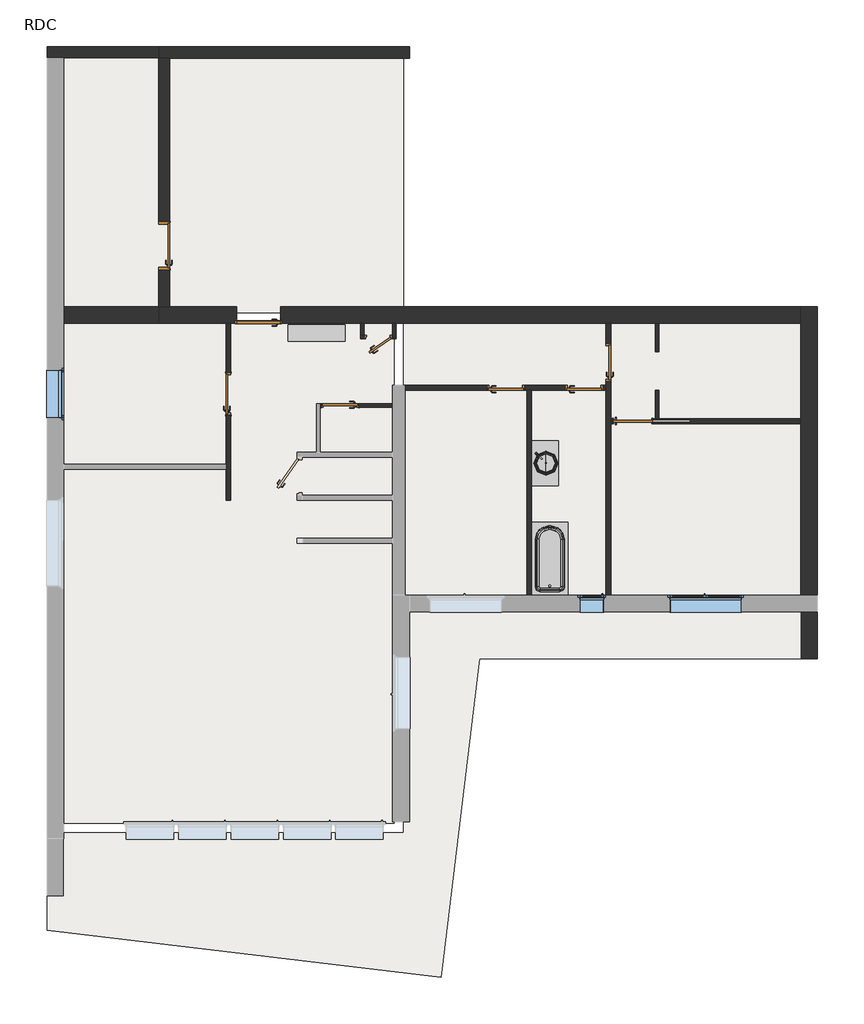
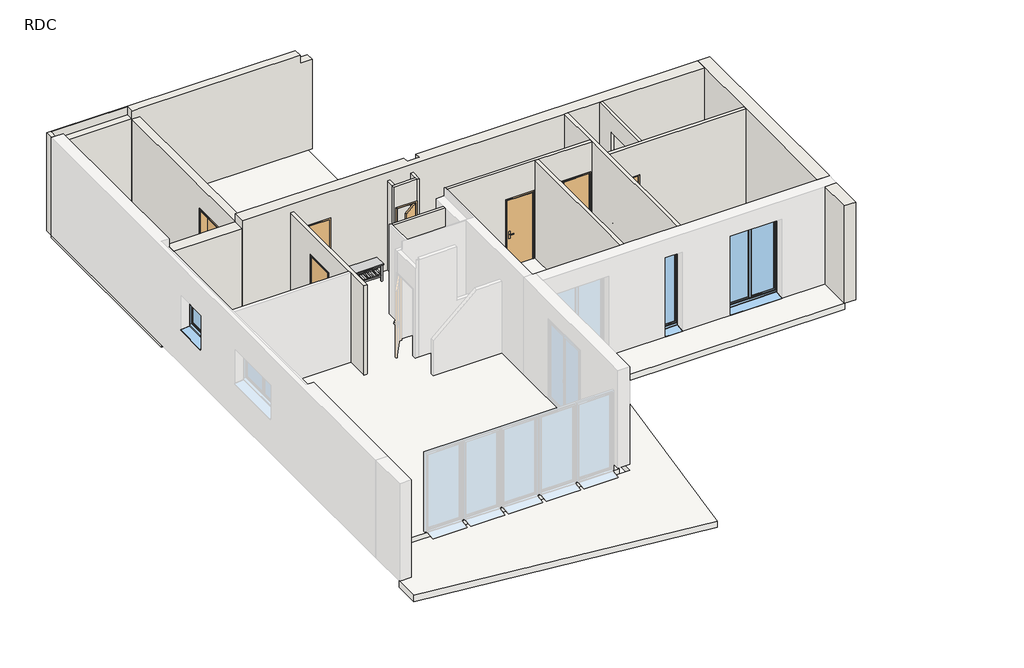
# One storey, part 2 of 2: 17 walls, 9 doors, 3 slabs, 3 windows, 2 flow terminals, 2 furniture elements.
"""IFC4 building model written with IfcOpenShell, lengths in millimetres."""

from ifc_helpers import new_model, si_unit, frame, origin, origin_with_axes, place, context, project, spatial, polyline, outline, extrude, faceted_brep, transform, mapped, element, save
from components import door_41a9e6d8, door_0_80m_x_2_04m_e0b4653d, int_simple_pp_0_53m_x_2_04m_9d17cb83, int_simple_pp_0_73m_x_2_04m_359deddd, int_simple_pp_0_73m_x_2_04m_ba43af2d, int_simple_pp_0_83m_x_2_04m_727c9c46, int_simple_pp_0_93m_x_2_04m_3c3404e0, flow_terminal_414a0167, baignoire_rectangulaire_mur_baignoire_rectangulaire_mur_52e2cdf1, furniture_1200_x_350_x_530_mm_359cf0c6, furniture_900mm_0b803dc7, window_0_50m_x_2_40m_2195513b, window_1_vantail_droit_1_00m_x_1_00m_58547b41, window_1_50m_x_2_40m_e69f112c

model = new_model("IFC4")

# Units and contexts
model_context = context("Model", 3, world=origin())
ifc_project = project(units=[si_unit("LENGTHUNIT", "METRE", prefix="MILLI")], contexts=[model_context])

# Site, building, storey
site = spatial("IfcSite", under=ifc_project)
building = spatial("IfcBuilding", under=site)
storey = spatial("IfcBuildingStorey", under=building, Name="RDC", Elevation=0.0)

# Doors
placement = place(None, origin())
door_shape = door_41a9e6d8(model_context)
element("IfcDoor", 1, ObjectType="Porte d'entrée : PP Lisse (0.90 m x 2.15 m)", at=placement, inside=storey, context=model_context, shape_type="MappedRepresentation", body=[
    mapped(door_shape, transform((-3541.697342, 2229.9574199, 0.0), x_axis=(-1.0, 0.0, 0.0), y_axis=(0.0, -1.0, 0.0), z_axis=(0.0, 0.0, 1.0))),
])
door_0_80m_x_2_04m_shape = door_0_80m_x_2_04m_e0b4653d(model_context)
element("IfcDoor", 2, ObjectType="Coulissante - Encastrée : 0.80m x 2.04m", at=placement, inside=storey, context=model_context, shape_type="MappedRepresentation", body=[
    mapped(door_0_80m_x_2_04m_shape, transform((4300.2977717, -3.0065065, 0.0), x_axis=(-1.0, 0.0, 0.0), y_axis=(0.0, -1.0, 0.0), z_axis=(0.0, 0.0, 1.0))),
])
int_simple_pp_0_53m_x_2_04m_shape = int_simple_pp_0_53m_x_2_04m_9d17cb83(model_context)
element("IfcDoor", 3, ObjectType="Int. Simple : PP (0.53m x 2.04m)", at=placement, inside=storey, context=model_context, shape_type="MappedRepresentation", body=[
    mapped(int_simple_pp_0_53m_x_2_04m_shape, transform((-983.697342, 1771.8961022, 0.0), x_axis=(1.0, 0.0, 0.0), y_axis=(0.0, 1.0, 0.0), z_axis=(0.0, 0.0, 1.0))),
])
int_simple_pp_0_73m_x_2_04m_shape = int_simple_pp_0_73m_x_2_04m_359deddd(model_context)
element("IfcDoor", 4, ObjectType="Int. Simple : PP (0.73m x 2.04m)", at=placement, inside=storey, context=model_context, shape_type="MappedRepresentation", body=[
    mapped(int_simple_pp_0_73m_x_2_04m_shape, transform((-1856.697342, 335.8961022, 0.0), x_axis=(-1.0, 0.0, 0.0), y_axis=(0.0, -1.0, 0.0), z_axis=(0.0, 0.0, 1.0))),
])
int_simple_pp_0_73m_x_2_04m_2_shape = int_simple_pp_0_73m_x_2_04m_ba43af2d(model_context)
element("IfcDoor", 5, ObjectType="Int. Simple : PP (0.73m x 2.04m)", at=placement, inside=storey, context=model_context, shape_type="MappedRepresentation", body=[
    mapped(int_simple_pp_0_73m_x_2_04m_2_shape, transform((1689.302658, 707.8961022, 0.0), x_axis=(1.0, 0.0, 0.0), y_axis=(0.0, 1.0, 0.0), z_axis=(0.0, 0.0, 1.0))),
])
element("IfcDoor", 6, ObjectType="Int. Simple : PP (0.73m x 2.04m)", at=placement, inside=storey, context=model_context, shape_type="MappedRepresentation", body=[
    mapped(int_simple_pp_0_73m_x_2_04m_2_shape, transform((3329.302658, 707.8961022, 0.0), x_axis=(1.0, 0.0, 0.0), y_axis=(0.0, 1.0, 0.0), z_axis=(0.0, 0.0, 1.0))),
])
element("IfcDoor", 7, ObjectType="Int. Simple : PP (0.73m x 2.04m)", at=placement, inside=storey, context=model_context, shape_type="MappedRepresentation", body=[
    mapped(int_simple_pp_0_73m_x_2_04m_2_shape, transform((3804.302658, 1272.8961022, 0.0), x_axis=(0.0, 1.0, 0.0), y_axis=(-1.0, 0.0, 0.0), z_axis=(0.0, 0.0, 1.0))),
])
int_simple_pp_0_83m_x_2_04m_shape = int_simple_pp_0_83m_x_2_04m_727c9c46(model_context)
element("IfcDoor", 8, ObjectType="Int. Simple : PP (0.83m x 2.04m)", at=placement, inside=storey, context=model_context, shape_type="MappedRepresentation", body=[
    mapped(int_simple_pp_0_83m_x_2_04m_shape, transform((-4161.697342, 614.9267611, 0.0), x_axis=(0.0, 1.0, 0.0), y_axis=(-1.0, 0.0, 0.0), z_axis=(0.0, 0.0, 1.0))),
])
int_simple_pp_0_93m_x_2_04m_shape = int_simple_pp_0_93m_x_2_04m_3c3404e0(model_context)
element("IfcDoor", 9, ObjectType="Int. Simple : PP (0.93m x 2.04m)", at=placement, inside=storey, context=model_context, shape_type="MappedRepresentation", body=[
    mapped(int_simple_pp_0_93m_x_2_04m_shape, transform((-5501.5193778, 3719.9574199, 0.0), x_axis=(0.0, 1.0, 0.0), y_axis=(-1.0, 0.0, 0.0), z_axis=(0.0, 0.0, 1.0))),
])

# Flow terminals
flow_terminal_shape = flow_terminal_414a0167(model_context)
element("IfcFlowTerminal", 10, ObjectType="Lavabo moderne : Lavabo moderne", at=placement, inside=storey, context=model_context, shape_type="MappedRepresentation", body=[
    mapped(flow_terminal_shape, transform((2194.302658, -893.8262703, 740.0), x_axis=(0.0, 1.0, 0.0), y_axis=(-1.0, 0.0, 0.0), z_axis=(0.0, 0.0, 1.0))),
])
baignoire_rectangulaire_mur_baignoire_rectangulaire_mur_shape = baignoire_rectangulaire_mur_baignoire_rectangulaire_mur_52e2cdf1(model_context)
element("IfcFlowTerminal", 11, ObjectType="Baignoire rectangulaire - Mur : Baignoire rectangulaire - Mur", at=placement, inside=storey, context=model_context, shape_type="MappedRepresentation", body=[
    mapped(baignoire_rectangulaire_mur_baignoire_rectangulaire_mur_shape, transform((2144.302658, -2524.4396113, 0.0), x_axis=(0.0, 1.0, 0.0), y_axis=(-1.0, 0.0, 0.0), z_axis=(0.0, 0.0, 1.0))),
])

# Furniture
furniture_1200_x_350_x_530_mm_shape = furniture_1200_x_350_x_530_mm_359cf0c6(model_context)
element("IfcFurniture", 12, ObjectType="Banc : 1200 x 350 x 530 mm", at=placement, inside=storey, context=model_context, shape_type="MappedRepresentation", body=[
    mapped(furniture_1200_x_350_x_530_mm_shape, transform((-2313.697342, 2039.796778, 0.0), x_axis=(1.0, 0.0, 0.0), y_axis=(0.0, 1.0, 0.0), z_axis=(0.0, 0.0, 1.0))),
])
furniture_900mm_shape = furniture_900mm_0b803dc7(model_context)
element("IfcFurniture", 13, ObjectType="Meuble sous lavabo - Porte simple et 2 tiroirs : 900mm", at=placement, inside=storey, context=model_context, shape_type="MappedRepresentation", body=[
    mapped(furniture_900mm_shape, transform((2194.302658, -963.9141086, 0.0), x_axis=(0.0, 1.0, 0.0), y_axis=(-1.0, 0.0, 0.0), z_axis=(0.0, 0.0, 1.0))),
])

# Slabs
element("IfcSlab", 14, ObjectType="Dalle en béton + Isolant", at=placement, inside=storey, context=model_context, shape_type="SweptSolid", body=[
    extrude(outline(polyline([(7863.302658, -3665.0425801), (-486.697342, -3665.0425801), (-486.697342, 2084.9574199), (7863.302658, 2084.9574199), (7863.302658, -3665.0425801)])), frame((0.0, 0.0, -360.0), z_axis=(0.0, 0.0, 1.0), x_axis=(1.0, 0.0, 0.0)), (0.0, 0.0, 1.0), 360.0),
    extrude(outline(polyline([(-7636.697342, -8415.0425801), (-7636.697342, 2084.9574199), (-686.697342, 2084.9574199), (-686.697342, -8415.0425801), (-7636.697342, -8415.0425801)])), frame((0.0, 0.0, -360.0), z_axis=(0.0, 0.0, 1.0), x_axis=(1.0, 0.0, 0.0)), (0.0, 0.0, 1.0), 360.0),
])
element("IfcSlab", 15, ObjectType="Dalle en béton", at=placement, inside=storey, context=model_context, shape_type="Brep", body=[
    faceted_brep([(-486.697342, 7834.9574199, -250.0), (-486.697342, 2284.9574199, -250.0), (-686.697342, 2284.9574199, -250.0), (-7636.697342, 2284.9574199, -250.0), (-7836.697342, 2284.9574199, -250.0), (-7836.697342, 7834.9574199, -250.0), (-7636.697342, 7834.9574199, -250.0), (-686.697342, 7834.9574199, -250.0), (-486.697342, 7834.9574199, 0.0), (-7836.697342, 7834.9574199, 0.0), (-7836.697342, 2284.9574199, 0.0), (-7636.697342, 2284.9574199, 0.0), (-686.697342, 2284.9574199, 0.0), (-486.697342, 2284.9574199, 0.0)], [[[0, 1, 2, 3, 4, 5, 6, 7]], [[8, 9, 10, 11, 12, 13]], [[1, 0, 8, 13]], [[4, 3, 2, 1, 13, 12, 11, 10]], [[5, 4, 10, 9]], [[0, 7, 6, 5, 9, 8]]]),
])
element("IfcSlab", 16, ObjectType="Terrasse", at=placement, inside=storey, context=model_context, shape_type="SweptSolid", body=[
    extrude(outline(polyline([(7863.302658, -3865.0425801), (7863.302658, -4967.1038978), (1099.5646631, -4967.1038978), (296.1534738, -11641.8526297), (-7957.697342, -10648.3716214), (-7957.697342, -9912.1038978), (-7636.697342, -9912.1038978), (-7636.697342, -8615.0425801), (-486.697342, -8615.0425801), (-486.697342, -3865.0425801), (7863.302658, -3865.0425801)])), frame((0.0, 0.0, -190.0), z_axis=(0.0, 0.0, 1.0), x_axis=(1.0, 0.0, 0.0)), (0.0, 0.0, 1.0), 190.0),
])

# Walls
element("IfcWall", 17, ObjectType="Ext. Bardage Bois + Isolant + Béton + Finition", at=placement, inside=storey, context=model_context, shape_type="Brep", body=[
    faceted_brep([(8183.302658, -3635.0425801, 0.0), (8183.302658, 2404.9574199, 0.0), (8183.302658, 2404.9574199, 3000.0), (8183.302658, -3635.0425801, 3000.0), (7833.302658, -3635.0425801, 0.0), (7833.302658, -3635.0425801, 3000.0), (7833.302658, -40.1038978, 3000.0), (7833.302658, 59.8961022, 3000.0), (7833.302658, 2054.9574199, 3000.0), (7833.302658, 2404.9574199, 3000.0), (7833.302658, 2404.9574199, 0.0), (7833.302658, 2054.9574199, 0.0), (7833.302658, 59.8961022, 0.0), (7833.302658, -40.1038978, 0.0)], [[[0, 1, 2, 3]], [[4, 5, 6, 7, 8, 9, 10, 11, 12, 13]], [[1, 0, 4, 13, 12, 11, 10]], [[3, 2, 9, 8, 7, 6, 5]], [[0, 3, 5, 4]], [[2, 1, 10, 9]]]),
])
element("IfcWall", 18, ObjectType="Ext. Bardage Bois + Isolant + Béton + Finition", at=placement, inside=storey, context=model_context, shape_type="Brep", body=[
    faceted_brep([(7833.302658, 2404.9574199, 3000.0), (7833.302658, 2404.9574199, 0.0), (-3071.697342, 2404.9574199, 0.0), (-3071.697342, 2404.9574199, 2160.0), (-3991.697342, 2404.9574199, 2160.0), (-3991.697342, 2404.9574199, 0.0), (-5386.5193778, 2404.9574199, 0.0), (-5616.5193778, 2404.9574199, 0.0), (-5616.5193778, 2404.9574199, 2750.0), (-5616.5193778, 2404.9574199, 3000.0), (-716.697342, 2404.9574199, 3000.0), (-716.697342, 2404.9574199, 2750.0), (-366.697342, 2404.9574199, 2750.0), (-366.697342, 2404.9574199, 3000.0), (7833.302658, 2054.9574199, 3000.0), (4856.302658, 2054.9574199, 3000.0), (4784.302658, 2054.9574199, 3000.0), (3854.302658, 2054.9574199, 3000.0), (3754.302658, 2054.9574199, 3000.0), (-366.697342, 2054.9574199, 3000.0), (-5616.5193778, 2054.9574199, 3000.0), (-5616.5193778, 2054.9574199, 2750.0), (-5616.5193778, 2054.9574199, 0.0), (-4211.697342, 2054.9574199, 0.0), (-4111.697342, 2054.9574199, 0.0), (-4021.697342, 2054.9574199, 0.0), (-4021.697342, 2054.9574199, 2190.0), (-3041.697342, 2054.9574199, 2190.0), (-3041.697342, 2054.9574199, 0.0), (-1392.697342, 2054.9574199, 0.0), (-1320.697342, 2054.9574199, 0.0), (-716.697342, 2054.9574199, 0.0), (-644.697342, 2054.9574199, 0.0), (3754.302658, 2054.9574199, 0.0), (3854.302658, 2054.9574199, 0.0), (4784.302658, 2054.9574199, 0.0), (4856.302658, 2054.9574199, 0.0), (7833.302658, 2054.9574199, 0.0), (-3041.697342, 2111.9574199, 0.0), (-3056.697342, 2111.9574199, 0.0), (-3056.697342, 2154.9574199, 0.0), (-3071.697342, 2154.9574199, 0.0), (-3991.697342, 2154.9574199, 0.0), (-4006.697342, 2154.9574199, 0.0), (-4006.697342, 2111.9574199, 0.0), (-4021.697342, 2111.9574199, 0.0), (-366.697342, 2229.9574199, 3000.0), (-716.697342, 2229.9574199, 3000.0), (-366.697342, 2229.9574199, 2750.0), (-716.697342, 2229.9574199, 2750.0), (-716.697342, 2284.9574199, 2750.0), (-486.697342, 2229.9574199, 2750.0), (-3071.697342, 2154.9574199, 2160.0), (-3991.697342, 2154.9574199, 2160.0), (-4006.697342, 2111.9574199, 2175.0), (-3056.697342, 2111.9574199, 2175.0), (-3041.697342, 2111.9574199, 2190.0), (-4021.697342, 2111.9574199, 2190.0), (-3056.697342, 2154.9574199, 2175.0), (-4006.697342, 2154.9574199, 2175.0)], [[[0, 1, 2, 3, 4, 5, 6, 7, 8, 9, 10, 11, 12, 13]], [[14, 15, 16, 17, 18, 19, 20, 21, 22, 23, 24, 25, 26, 27, 28, 29, 30, 31, 32, 33, 34, 35, 36, 37]], [[1, 37, 36, 35, 34, 33, 32, 31, 30, 29, 28, 38, 39, 40, 41, 2]], [[22, 7, 6, 5, 42, 43, 44, 45, 25, 24, 23]], [[20, 19, 18, 17, 16, 15, 14, 0, 13, 46, 47, 10, 9]], [[1, 0, 14, 37]], [[9, 8, 7, 22, 21, 20]], [[12, 48, 46, 13]], [[49, 50, 11, 10, 47]], [[49, 51, 48, 12, 11, 50]], [[52, 53, 4, 3]], [[53, 42, 5, 4]], [[41, 52, 3, 2]], [[44, 54, 55, 39, 38, 56, 57, 45]], [[56, 38, 28, 27]], [[57, 56, 27, 26]], [[45, 57, 26, 25]], [[39, 55, 58, 40]], [[53, 52, 41, 40, 58, 59, 43, 42]], [[55, 54, 59, 58]], [[54, 44, 43, 59]], [[48, 51, 49, 47, 46]]]),
])
element("IfcWall", 19, ObjectType="Int. Plâtre 100 mm", at=placement, inside=storey, context=model_context, shape_type="Brep", body=[
    faceted_brep([(-4111.697342, -1645.1038978, 2750.0), (-4111.697342, -1645.1038978, 0.0), (-4111.697342, 129.9267611, 0.0), (-4111.697342, 129.9267611, 2075.0), (-4111.697342, 1029.9267611, 2075.0), (-4111.697342, 1029.9267611, 0.0), (-4111.697342, 2054.9574199, 0.0), (-4111.697342, 2054.9574199, 2750.0), (-4211.697342, -1645.1038978, 0.0), (-4211.697342, -1645.1038978, 2750.0), (-4211.697342, -995.1038978, 2750.0), (-4211.697342, -895.1038978, 2750.0), (-4211.697342, 2054.9574199, 2750.0), (-4211.697342, 2054.9574199, 0.0), (-4211.697342, 1029.9267611, 0.0), (-4211.697342, 1029.9267611, 2075.0), (-4211.697342, 129.9267611, 2075.0), (-4211.697342, 129.9267611, 0.0), (-4211.697342, -895.1038978, 0.0), (-4211.697342, -995.1038978, 0.0)], [[[0, 1, 2, 3, 4, 5, 6, 7]], [[8, 9, 10, 11, 12, 13, 14, 15, 16, 17, 18, 19]], [[1, 8, 19, 18, 17, 2]], [[13, 6, 5, 14]], [[1, 0, 9, 8]], [[7, 6, 13, 12]], [[0, 7, 12, 11, 10, 9]], [[4, 15, 14, 5]], [[15, 4, 3, 16]], [[16, 3, 2, 17]]]),
])
element("IfcWall", 20, ObjectType="Int. Plâtre 100 mm", at=placement, inside=storey, context=model_context, shape_type="Brep", body=[
    faceted_brep([(3754.302658, 657.8961022, 3000.0), (2194.302658, 657.8961022, 3000.0), (2094.302658, 657.8961022, 3000.0), (-456.697342, 657.8961022, 3000.0), (-456.697342, 657.8961022, 0.0), (1254.302658, 657.8961022, 0.0), (1254.302658, 657.8961022, 2075.0), (2054.302658, 657.8961022, 2075.0), (2054.302658, 657.8961022, 0.0), (2094.302658, 657.8961022, 0.0), (2194.302658, 657.8961022, 0.0), (2894.302658, 657.8961022, 0.0), (2894.302658, 657.8961022, 2075.0), (3694.302658, 657.8961022, 2075.0), (3694.302658, 657.8961022, 0.0), (3754.302658, 657.8961022, 0.0), (-456.697342, 757.8961022, 3000.0), (3754.302658, 757.8961022, 3000.0), (3754.302658, 757.8961022, 0.0), (3694.302658, 757.8961022, 0.0), (3694.302658, 757.8961022, 2075.0), (2894.302658, 757.8961022, 2075.0), (2894.302658, 757.8961022, 0.0), (2054.302658, 757.8961022, 0.0), (2054.302658, 757.8961022, 2075.0), (1254.302658, 757.8961022, 2075.0), (1254.302658, 757.8961022, 0.0), (-456.697342, 757.8961022, 0.0)], [[[0, 1, 2, 3, 4, 5, 6, 7, 8, 9, 10, 11, 12, 13, 14, 15]], [[16, 17, 18, 19, 20, 21, 22, 23, 24, 25, 26, 27]], [[18, 15, 14, 19]], [[4, 27, 26, 5]], [[8, 23, 22, 11, 10, 9]], [[3, 2, 1, 0, 17, 16]], [[0, 15, 18, 17]], [[4, 3, 16, 27]], [[7, 24, 23, 8]], [[24, 7, 6, 25]], [[25, 6, 5, 26]], [[13, 20, 19, 14]], [[20, 13, 12, 21]], [[21, 12, 11, 22]]]),
])
element("IfcWall", 21, ObjectType="Int. Plâtre 100 mm", at=placement, inside=storey, context=model_context, shape_type="Brep", body=[
    faceted_brep([(3754.302658, -3635.0425801, 3000.0), (3754.302658, 657.8961022, 3000.0), (3754.302658, 757.8961022, 3000.0), (3754.302658, 2054.9574199, 3000.0), (3754.302658, 2054.9574199, 0.0), (3754.302658, 1637.8961022, 0.0), (3754.302658, 1637.8961022, 2075.0), (3754.302658, 837.8961022, 2075.0), (3754.302658, 837.8961022, 0.0), (3754.302658, 757.8961022, 0.0), (3754.302658, 657.8961022, 0.0), (3754.302658, -3635.0425801, 0.0), (3754.302658, -3635.0425801, 35.0), (3754.302658, -3635.0425801, 2485.0), (3854.302658, 2054.9574199, 3000.0), (3854.302658, 59.8961022, 3000.0), (3854.302658, -40.1038978, 3000.0), (3854.302658, -3635.0425801, 3000.0), (3854.302658, -3635.0425801, 0.0), (3854.302658, -40.1038978, 0.0), (3854.302658, 59.8961022, 0.0), (3854.302658, 837.8961022, 0.0), (3854.302658, 837.8961022, 2075.0), (3854.302658, 1637.8961022, 2075.0), (3854.302658, 1637.8961022, 0.0), (3854.302658, 2054.9574199, 0.0)], [[[0, 1, 2, 3, 4, 5, 6, 7, 8, 9, 10, 11, 12, 13]], [[14, 15, 16, 17, 18, 19, 20, 21, 22, 23, 24, 25]], [[4, 25, 24, 5]], [[18, 11, 10, 9, 8, 21, 20, 19]], [[3, 2, 1, 0, 17, 16, 15, 14]], [[0, 13, 12, 11, 18, 17]], [[4, 3, 14, 25]], [[23, 6, 5, 24]], [[6, 23, 22, 7]], [[7, 22, 21, 8]]]),
])
element("IfcWall", 22, ObjectType="Int. Plâtre 100 mm", at=placement, inside=storey, context=model_context, shape_type="Brep", body=[
    faceted_brep([(3854.302658, 59.8961022, 3000.0), (4784.302658, 59.8961022, 3000.0), (4856.302658, 59.8961022, 3000.0), (7833.302658, 59.8961022, 3000.0), (7833.302658, 59.8961022, 0.0), (4856.302658, 59.8961022, 0.0), (4784.302658, 59.8961022, 0.0), (4724.302658, 59.8961022, 0.0), (4724.302658, 59.8961022, 2055.0), (3894.302658, 59.8961022, 2055.0), (3894.302658, 59.8961022, 0.0), (3854.302658, 59.8961022, 0.0), (7833.302658, -40.1038978, 3000.0), (3854.302658, -40.1038978, 3000.0), (3854.302658, -40.1038978, 0.0), (3894.302658, -40.1038978, 0.0), (3894.302658, -40.1038978, 2055.0), (4724.302658, -40.1038978, 2055.0), (4724.302658, -40.1038978, 0.0), (7833.302658, -40.1038978, 0.0), (4724.302658, -15.1038978, 0.0), (5524.302658, -15.1038978, 0.0), (5524.302658, 34.8961022, 0.0), (4724.302658, 34.8961022, 0.0), (4724.302658, 34.8961022, 2055.0), (5524.302658, 34.8961022, 2055.0), (5524.302658, -15.1038978, 2055.0), (4724.302658, -15.1038978, 2055.0)], [[[0, 1, 2, 3, 4, 5, 6, 7, 8, 9, 10, 11]], [[12, 13, 14, 15, 16, 17, 18, 19]], [[4, 19, 18, 20, 21, 22, 23, 7, 6, 5]], [[14, 11, 10, 15]], [[3, 2, 1, 0, 13, 12]], [[4, 3, 12, 19]], [[0, 11, 14, 13]], [[24, 25, 26, 27, 17, 16, 9, 8]], [[9, 16, 15, 10]], [[23, 24, 8, 7]], [[25, 24, 23, 22]], [[26, 25, 22, 21]], [[27, 26, 21, 20]], [[27, 20, 18, 17]]]),
])
element("IfcWall", 23, ObjectType="Int. Plâtre 100 mm", at=placement, inside=storey, context=model_context, shape_type="SweptSolid", body=[
    extrude(outline(polyline([(2094.302658, -3635.0425801), (2094.302658, 657.8961022), (2194.302658, 657.8961022), (2194.302658, -3635.0425801), (2094.302658, -3635.0425801)])), origin_with_axes(), (0.0, 0.0, 1.0), 3000.0),
])
element("IfcWall", 24, ObjectType="Int. Plâtre 70 mm", at=placement, inside=storey, context=model_context, shape_type="SweptSolid", body=[
    extrude(outline(polyline([(2750.0, -2241.697342), (0.0, -2241.697342), (0.0, -2221.697342), (2075.0, -2221.697342), (2075.0, -1421.697342), (0.0, -1421.697342), (0.0, -716.697342), (2750.0, -716.697342), (2750.0, -2241.697342)])), frame((0.0, 299.8961022, 0.0), z_axis=(0.0, 1.0, 0.0), x_axis=(0.0, 0.0, 1.0)), (0.0, 0.0, 1.0), 72.0),
])
element("IfcWall", 25, ObjectType="Int. Plâtre 70 mm", at=placement, inside=storey, context=model_context, shape_type="SweptSolid", body=[
    extrude(outline(polyline([(59.8961022, 0.0), (59.8961022, 3000.0), (2054.9574199, 3000.0), (2054.9574199, 0.0), (1463.4416882, 0.0), (1463.4416882, 2438.4), (659.8961022, 2438.4), (659.8961022, 0.0), (59.8961022, 0.0)])), frame((4784.302658, 0.0, 0.0), z_axis=(1.0, 0.0, 0.0), x_axis=(0.0, 1.0, 0.0)), (0.0, 0.0, 1.0), 72.0),
])
element("IfcWall", 26, ObjectType="Int. Plâtre 70 mm", at=placement, inside=storey, context=model_context, shape_type="Brep", body=[
    faceted_brep([(-716.697342, 2054.9574199, 0.0), (-716.697342, 1807.8961022, 0.0), (-716.697342, 1735.8961022, 0.0), (-716.697342, 1735.8961022, 2750.0), (-716.697342, 1807.8961022, 2750.0), (-716.697342, 2054.9574199, 2750.0), (-644.697342, 2054.9574199, 0.0), (-644.697342, 2054.9574199, 2750.0), (-644.697342, 1735.8961022, 2750.0), (-644.697342, 1735.8961022, 0.0)], [[[0, 1, 2, 3, 4, 5]], [[6, 7, 8, 9]], [[2, 1, 0, 6, 9]], [[0, 5, 7, 6]], [[3, 2, 9, 8]], [[5, 4, 3, 8, 7]]]),
])
element("IfcWall", 27, ObjectType="Int. Plâtre 70 mm", at=placement, inside=storey, context=model_context, shape_type="Brep", body=[
    faceted_brep([(-716.697342, 1807.8961022, 2750.0), (-716.697342, 1807.8961022, 0.0), (-718.697342, 1807.8961022, 0.0), (-718.697342, 1807.8961022, 2075.0), (-1318.697342, 1807.8961022, 2075.0), (-1318.697342, 1807.8961022, 0.0), (-1320.697342, 1807.8961022, 0.0), (-1392.697342, 1807.8961022, 0.0), (-1392.697342, 1807.8961022, 2750.0), (-1320.697342, 1807.8961022, 2750.0), (-716.697342, 1735.8961022, 0.0), (-716.697342, 1735.8961022, 2750.0), (-1392.697342, 1735.8961022, 2750.0), (-1392.697342, 1735.8961022, 0.0), (-1318.697342, 1735.8961022, 0.0), (-1318.697342, 1735.8961022, 2075.0), (-718.697342, 1735.8961022, 2075.0), (-718.697342, 1735.8961022, 0.0)], [[[0, 1, 2, 3, 4, 5, 6, 7, 8, 9]], [[10, 11, 12, 13, 14, 15, 16, 17]], [[1, 10, 17, 2]], [[13, 7, 6, 5, 14]], [[1, 0, 11, 10]], [[8, 7, 13, 12]], [[0, 9, 8, 12, 11]], [[16, 3, 2, 17]], [[3, 16, 15, 4]], [[4, 15, 14, 5]]]),
])
element("IfcWall", 28, ObjectType="Int. Plâtre 70 mm", at=placement, inside=storey, context=model_context, shape_type="SweptSolid", body=[
    extrude(outline(polyline([(-1320.697342, 2054.9574199), (-1320.697342, 1807.8961022), (-1392.697342, 1807.8961022), (-1392.697342, 2054.9574199), (-1320.697342, 2054.9574199)])), origin_with_axes(), (0.0, 0.0, 1.0), 2750.0),
])
element("IfcWall", 29, ObjectType="Ext. Bardage Métal + Béton + Finition", at=placement, inside=storey, context=model_context, shape_type="SweptSolid", body=[
    extrude(outline(polyline([(7614.9574199, 0.0), (4184.9574199, 0.0), (4184.9574199, 2075.0), (3184.9574199, 2075.0), (3184.9574199, 0.0), (2404.9574199, 0.0), (2404.9574199, 2750.0), (7614.9574199, 2750.0), (7614.9574199, 0.0)])), frame((-5616.5193778, 0.0, 0.0), z_axis=(1.0, 0.0, 0.0), x_axis=(0.0, 1.0, 0.0)), (0.0, 0.0, 1.0), 230.0),
])
element("IfcWall", 30, ObjectType="Ext. Bardage Bois +  Béton + Bardage Métal", at=placement, inside=storey, context=model_context, shape_type="Brep", body=[
    faceted_brep([(-5616.5193778, 7614.9574199, 0.0), (-5386.5193778, 7614.9574199, 0.0), (-366.697342, 7614.9574199, 0.0), (-366.697342, 7614.9574199, 2750.0), (-716.697342, 7614.9574199, 2750.0), (-716.697342, 7614.9574199, 3000.0), (-5386.5193778, 7614.9574199, 3000.0), (-5616.5193778, 7614.9574199, 3000.0), (-366.697342, 7854.9574199, 0.0), (-5616.5193778, 7854.9574199, 0.0), (-5616.5193778, 7854.9574199, 3000.0), (-716.697342, 7854.9574199, 3000.0), (-716.697342, 7854.9574199, 2750.0), (-366.697342, 7854.9574199, 2750.0), (-5616.5193778, 7624.9574199, 0.0), (-5616.5193778, 7624.9574199, 3000.0), (-716.697342, 7624.9574199, 3000.0)], [[[0, 1, 2, 3, 4, 5, 6, 7]], [[8, 9, 10, 11, 12, 13]], [[2, 1, 0, 14, 9, 8]], [[2, 8, 13, 3]], [[10, 15, 7, 6, 5, 16, 11]], [[0, 7, 15, 10, 9, 14]], [[4, 12, 11, 16, 5]], [[12, 4, 3, 13]]]),
])
element("IfcWall", 31, ObjectType="Ext. Bardage Bois + Béton + Finition", at=placement, inside=storey, context=model_context, shape_type="Brep", body=[
    faceted_brep([(-7956.697342, 7624.9574199, 0.0), (-7606.697342, 7624.9574199, 0.0), (-5616.5193778, 7624.9574199, 0.0), (-5616.5193778, 7624.9574199, 2750.0), (-7836.697342, 7624.9574199, 2750.0), (-7836.697342, 7624.9574199, 3000.0), (-7956.697342, 7624.9574199, 3000.0), (-5616.5193778, 7854.9574199, 0.0), (-7956.697342, 7854.9574199, 0.0), (-7956.697342, 7854.9574199, 3000.0), (-7606.697342, 7854.9574199, 3000.0), (-5616.5193778, 7854.9574199, 3000.0), (-7836.697342, 7834.9574199, 3000.0), (-5616.5193778, 7834.9574199, 3000.0), (-5616.5193778, 7834.9574199, 2750.0), (-7836.697342, 7834.9574199, 2750.0)], [[[0, 1, 2, 3, 4, 5, 6]], [[7, 8, 9, 10, 11]], [[2, 1, 0, 8, 7]], [[11, 10, 9, 6, 5, 12, 13]], [[0, 6, 9, 8]], [[2, 7, 11, 13, 14, 3]], [[14, 15, 4, 3]], [[15, 12, 5, 4]], [[12, 15, 14, 13]]]),
])
element("IfcWall", 32, ObjectType="Ext. Bardage Bois + Isolant + Béton + Bardage Métal", at=placement, inside=storey, context=model_context, shape_type="Brep", body=[
    faceted_brep([(7843.302658, -3985.0425801, 0.0), (7843.302658, -4967.1038978, 0.0), (7843.302658, -4967.1038978, 3000.0), (7843.302658, -4867.1038978, 3000.0), (7843.302658, -3985.0425801, 3000.0), (8183.302658, -3985.0425801, 0.0), (8183.302658, -3985.0425801, 3000.0), (8183.302658, -4867.1038978, 3000.0), (8183.302658, -4967.1038978, 3000.0), (8183.302658, -4967.1038978, 0.0)], [[[0, 1, 2, 3, 4]], [[5, 6, 7, 8, 9]], [[1, 0, 5, 9]], [[2, 1, 9, 8]], [[4, 3, 2, 8, 7, 6]], [[0, 4, 6, 5]]]),
])
element("IfcWall", 33, ObjectType="Int. Finition + Isolant + Béton + Finition", at=placement, inside=storey, context=model_context, shape_type="Brep", body=[
    faceted_brep([(-5616.5193778, 2404.9574199, 0.0), (-7606.697342, 2404.9574199, 0.0), (-7606.697342, 2404.9574199, 2750.0), (-5616.5193778, 2404.9574199, 2750.0), (-7606.697342, 2054.9574199, 0.0), (-5616.5193778, 2054.9574199, 0.0), (-5616.5193778, 2054.9574199, 2750.0), (-7606.697342, 2054.9574199, 2750.0), (-7606.697342, 2284.9574199, 2750.0)], [[[0, 1, 2, 3]], [[4, 5, 6, 7]], [[1, 0, 5, 4]], [[1, 4, 7, 8, 2]], [[5, 0, 3, 6]], [[7, 6, 3, 2, 8]]]),
])

# Windows
window_0_50m_x_2_40m_shape = window_0_50m_x_2_40m_2195513b(model_context)
element("IfcWindow", 34, ObjectType="PF 1 Vantail - Droite : 0.50m x 2.40m", at=placement, inside=storey, context=model_context, shape_type="MappedRepresentation", body=[
    mapped(window_0_50m_x_2_40m_shape, transform((3454.302658, -3810.0425801, 0.0), x_axis=(-1.0, 0.0, 0.0), y_axis=(0.0, -1.0, 0.0), z_axis=(0.0, 0.0, 1.0))),
])
window_1_vantail_droit_1_00m_x_1_00m_shape = window_1_vantail_droit_1_00m_x_1_00m_58547b41(model_context)
element("IfcWindow", 35, ObjectType="1 Vantail - Droit : 1.00m x 1.00m", at=placement, inside=storey, context=model_context, shape_type="MappedRepresentation", body=[
    mapped(window_1_vantail_droit_1_00m_x_1_00m_shape, transform((-7781.697342, 579.9267611, 300.0), x_axis=(0.0, 1.0, 0.0), y_axis=(-1.0, 0.0, 0.0), z_axis=(0.0, 0.0, 1.0))),
])
window_1_50m_x_2_40m_shape = window_1_50m_x_2_40m_e69f112c(model_context)
element("IfcWindow", 36, ObjectType="PF 2 Vantaux - Droits : 1.50m x 2.40m", at=placement, inside=storey, context=model_context, shape_type="MappedRepresentation", body=[
    mapped(window_1_50m_x_2_40m_shape, transform((5843.802658, -3810.0425801, 0.0), x_axis=(-1.0, 0.0, 0.0), y_axis=(0.0, -1.0, 0.0), z_axis=(0.0, 0.0, 1.0))),
])

save(model, "model.ifc")
